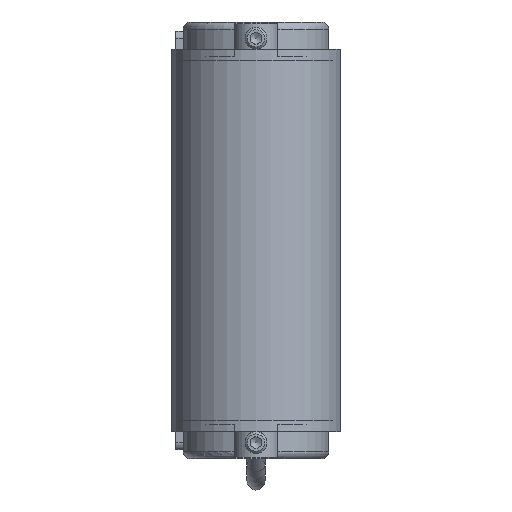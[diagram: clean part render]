
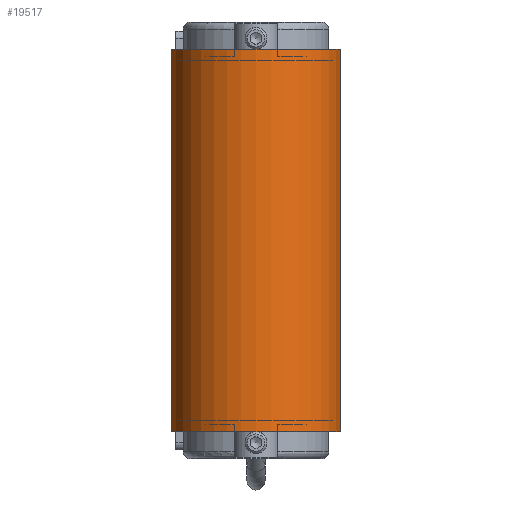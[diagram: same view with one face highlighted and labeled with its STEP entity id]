
A CAD part, front view. The second image highlights one B-rep face of the part: STEP entity #19517.
In plain terms, the highlighted cylindrical face has radius 23.3 mm (diameter 46.6 mm), a partial arc.
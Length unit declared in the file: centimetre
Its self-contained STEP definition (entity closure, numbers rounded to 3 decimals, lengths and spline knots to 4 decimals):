
#557=CYLINDRICAL_SURFACE('',#20867,2.33);
#1199=CIRCLE('',#20862,2.33);
#1202=CIRCLE('',#20868,2.33);
#2026=FACE_OUTER_BOUND('',#3085,.T.);
#3085=EDGE_LOOP('',(#13224,#13225,#13226,#13227));
#4425=LINE('',#28784,#5998);
#4426=LINE('',#28788,#5999);
#5998=VECTOR('',#23559,1.);
#5999=VECTOR('',#23564,1.);
#7743=VERTEX_POINT('',#28767);
#7744=VERTEX_POINT('',#28768);
#7749=VERTEX_POINT('',#28782);
#7750=VERTEX_POINT('',#28786);
#9869=EDGE_CURVE('',#7743,#7744,#1199,.T.);
#9877=EDGE_CURVE('',#7749,#7744,#4425,.T.);
#9878=EDGE_CURVE('',#7749,#7750,#1202,.T.);
#9879=EDGE_CURVE('',#7743,#7750,#4426,.T.);
#13224=ORIENTED_EDGE('',*,*,#9878,.T.);
#13225=ORIENTED_EDGE('',*,*,#9879,.F.);
#13226=ORIENTED_EDGE('',*,*,#9869,.T.);
#13227=ORIENTED_EDGE('',*,*,#9877,.F.);
#19517=ADVANCED_FACE('',(#2026),#557,.T.);
#20862=AXIS2_PLACEMENT_3D('',#28769,#23544,#23545);
#20867=AXIS2_PLACEMENT_3D('',#28785,#23560,#23561);
#20868=AXIS2_PLACEMENT_3D('',#28787,#23562,#23563);
#23544=DIRECTION('center_axis',(0.,0.,
-1.));
#23545=DIRECTION('ref_axis',(-1.,0.,0.));
#23559=DIRECTION('',(0.,0.,1.));
#23560=DIRECTION('center_axis',(0.,0.,
-1.));
#23561=DIRECTION('ref_axis',(-1.,0.,0.));
#23562=DIRECTION('center_axis',(0.,0.,
1.));
#23563=DIRECTION('ref_axis',(-1.,0.,0.));
#23564=DIRECTION('',(0.,0.,-1.));
#28767=CARTESIAN_POINT('',(2.33,-87.,5.25));
#28768=CARTESIAN_POINT('',(-2.33,-87.,5.25));
#28769=CARTESIAN_POINT('Origin',(0.,-87.,5.25));
#28782=CARTESIAN_POINT('',(-2.33,-87.,-5.25));
#28784=CARTESIAN_POINT('',(-2.33,-87.,0.));
#28785=CARTESIAN_POINT('Origin',(0.,-87.,0.));
#28786=CARTESIAN_POINT('',(2.33,-87.,-5.25));
#28787=CARTESIAN_POINT('Origin',(0.,-87.,-5.25));
#28788=CARTESIAN_POINT('',(2.33,-87.,0.));
